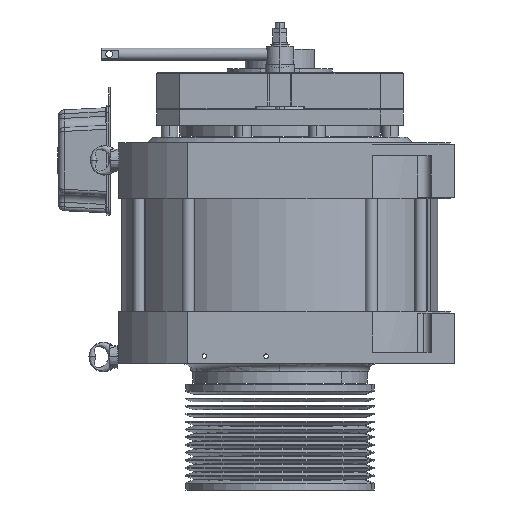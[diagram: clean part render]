
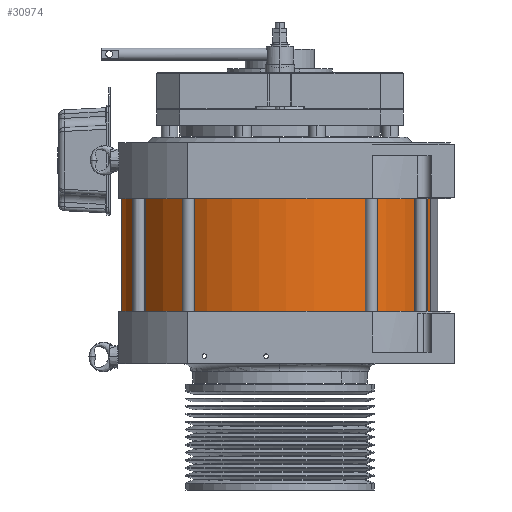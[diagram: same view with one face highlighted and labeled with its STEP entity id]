
A CAD part, left-side view. The second image highlights one B-rep face of the part: STEP entity #30974.
In plain terms, the highlighted cylindrical face has radius 205 mm (diameter 410 mm), a partial arc.
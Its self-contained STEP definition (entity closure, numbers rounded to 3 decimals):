
#1798 = VERTEX_POINT ( 'NONE', #57238 ) ;
#1914 = DIRECTION ( 'NONE',  ( 0., 0., 1. ) ) ;
#2344 = DIRECTION ( 'NONE',  ( 0., 0., -1. ) ) ;
#7957 = EDGE_LOOP ( 'NONE', ( #27976, #9896, #20930, #51064 ) ) ;
#9896 = ORIENTED_EDGE ( 'NONE', *, *, #54559, .T. ) ;
#10808 = FACE_OUTER_BOUND ( 'NONE', #7957, .T. ) ;
#13203 = CARTESIAN_POINT ( 'NONE',  ( -62.034, -195.389, -238. ) ) ;
#15127 = CIRCLE ( 'NONE', #38758, 205. ) ;
#15218 = CARTESIAN_POINT ( 'NONE',  ( 0., 0., -68. ) ) ;
#16039 = DIRECTION ( 'NONE',  ( 0., 0., -1. ) ) ;
#19839 = DIRECTION ( 'NONE',  ( 0.303, 0.953, 0. ) ) ;
#19962 = DIRECTION ( 'NONE',  ( -0.303, -0.953, 0. ) ) ;
#20930 = ORIENTED_EDGE ( 'NONE', *, *, #46145, .T. ) ;
#24237 = CARTESIAN_POINT ( 'NONE',  ( 0., 0., -238. ) ) ;
#24584 = LINE ( 'NONE', #42178, #57074 ) ;
#27976 = ORIENTED_EDGE ( 'NONE', *, *, #35727, .F. ) ;
#28352 = EDGE_CURVE ( 'NONE', #1798, #55407, #51777, .T. ) ;
#29335 = VECTOR ( 'NONE', #47086, 1000. ) ;
#30974 = ADVANCED_FACE ( 'NONE', ( #10808 ), #46969, .T. ) ;
#33896 = VERTEX_POINT ( 'NONE', #50657 ) ;
#35727 = EDGE_CURVE ( 'NONE', #41456, #1798, #42654, .T. ) ;
#38758 = AXIS2_PLACEMENT_3D ( 'NONE', #24237, #1914, #19839 ) ;
#41456 = VERTEX_POINT ( 'NONE', #49871 ) ;
#42178 = CARTESIAN_POINT ( 'NONE',  ( 62.034, 195.389, -68. ) ) ;
#42654 = CIRCLE ( 'NONE', #53903, 205. ) ;
#43254 = CARTESIAN_POINT ( 'NONE',  ( -62.034, -195.389, -68. ) ) ;
#46145 = EDGE_CURVE ( 'NONE', #33896, #55407, #15127, .T. ) ;
#46969 = CYLINDRICAL_SURFACE ( 'NONE', #52412, 205. ) ;
#47086 = DIRECTION ( 'NONE',  ( 0., 0., -1. ) ) ;
#49871 = CARTESIAN_POINT ( 'NONE',  ( 62.034, 195.389, -68. ) ) ;
#50657 = CARTESIAN_POINT ( 'NONE',  ( 62.034, 195.389, -238. ) ) ;
#51064 = ORIENTED_EDGE ( 'NONE', *, *, #28352, .F. ) ;
#51777 = LINE ( 'NONE', #43254, #29335 ) ;
#52412 = AXIS2_PLACEMENT_3D ( 'NONE', #15218, #2344, #19962 ) ;
#52989 = CARTESIAN_POINT ( 'NONE',  ( 0., 0., -68. ) ) ;
#53903 = AXIS2_PLACEMENT_3D ( 'NONE', #52989, #56288, #56851 ) ;
#54559 = EDGE_CURVE ( 'NONE', #41456, #33896, #24584, .T. ) ;
#55407 = VERTEX_POINT ( 'NONE', #13203 ) ;
#56288 = DIRECTION ( 'NONE',  ( 0., 0., 1. ) ) ;
#56851 = DIRECTION ( 'NONE',  ( 0.303, 0.953, 0. ) ) ;
#57074 = VECTOR ( 'NONE', #16039, 1000. ) ;
#57238 = CARTESIAN_POINT ( 'NONE',  ( -62.034, -195.389, -68. ) ) ;
